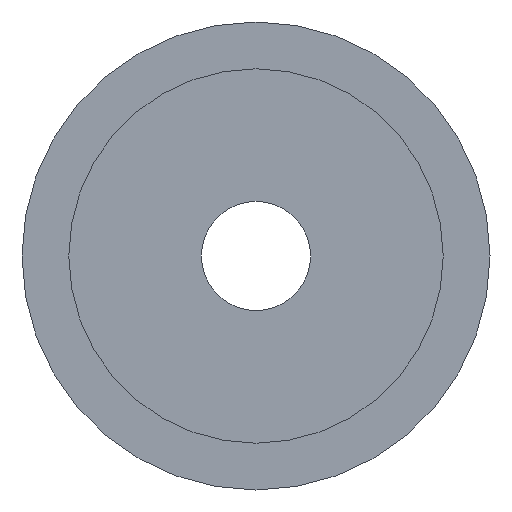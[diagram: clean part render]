
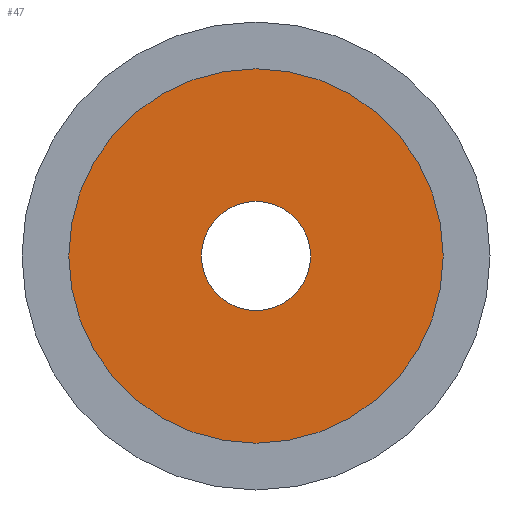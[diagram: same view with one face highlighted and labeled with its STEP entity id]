
A CAD part, left-side view. The second image highlights one B-rep face of the part: STEP entity #47.
In plain terms, the highlighted planar face has unit normal (-1, 0, 0).
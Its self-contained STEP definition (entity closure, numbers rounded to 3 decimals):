
#47 = ADVANCED_FACE ( 'NONE', ( #135, #134 ), #129, .F. ) ;
#48 = EDGE_LOOP ( 'NONE', ( #52, #54 ) ) ;
#52 = ORIENTED_EDGE ( 'NONE', *, *, #53, .F. ) ;
#53 = EDGE_CURVE ( 'NONE', #75, #72, #238, .T. ) ;
#54 = ORIENTED_EDGE ( 'NONE', *, *, #74, .F. ) ;
#55 = EDGE_LOOP ( 'NONE', ( #56, #57 ) ) ;
#56 = ORIENTED_EDGE ( 'NONE', *, *, #273, .T. ) ;
#57 = ORIENTED_EDGE ( 'NONE', *, *, #58, .T. ) ;
#58 = EDGE_CURVE ( 'NONE', #271, #274, #233, .T. ) ;
#72 = VERTEX_POINT ( 'NONE', #268 ) ;
#74 = EDGE_CURVE ( 'NONE', #72, #75, #267, .T. ) ;
#75 = VERTEX_POINT ( 'NONE', #262 ) ;
#125 = DIRECTION ( 'NONE',  ( 0., 0., -1. ) ) ;
#126 = DIRECTION ( 'NONE',  ( 1., 0., 0. ) ) ;
#127 = CARTESIAN_POINT ( 'NONE',  ( 0., 0., 0. ) ) ;
#128 = AXIS2_PLACEMENT_3D ( 'NONE', #127, #126, #125 ) ;
#129 = PLANE ( 'NONE',  #128 ) ;
#134 = FACE_BOUND ( 'NONE', #55, .T. ) ;
#135 = FACE_OUTER_BOUND ( 'NONE', #48, .T. ) ;
#229 = DIRECTION ( 'NONE',  ( 0., 0., -1. ) ) ;
#230 = DIRECTION ( 'NONE',  ( 1., 0., 0. ) ) ;
#231 = CARTESIAN_POINT ( 'NONE',  ( 0., 0., 0. ) ) ;
#232 = AXIS2_PLACEMENT_3D ( 'NONE', #231, #230, #229 ) ;
#233 = CIRCLE ( 'NONE', #232, 3.5 ) ;
#234 = DIRECTION ( 'NONE',  ( 0., 0., -1. ) ) ;
#235 = DIRECTION ( 'NONE',  ( 1., 0., 0. ) ) ;
#236 = CARTESIAN_POINT ( 'NONE',  ( 0., 0., 0. ) ) ;
#237 = AXIS2_PLACEMENT_3D ( 'NONE', #236, #235, #234 ) ;
#238 = CIRCLE ( 'NONE', #237, 12. ) ;
#262 = CARTESIAN_POINT ( 'NONE',  ( 0., 0., 12. ) ) ;
#263 = DIRECTION ( 'NONE',  ( 0., 0., -1. ) ) ;
#264 = DIRECTION ( 'NONE',  ( 1., 0., 0. ) ) ;
#265 = CARTESIAN_POINT ( 'NONE',  ( 0., 0., 0. ) ) ;
#266 = AXIS2_PLACEMENT_3D ( 'NONE', #265, #264, #263 ) ;
#267 = CIRCLE ( 'NONE', #266, 12. ) ;
#268 = CARTESIAN_POINT ( 'NONE',  ( 0., 0., -12. ) ) ;
#271 = VERTEX_POINT ( 'NONE', #381 ) ;
#273 = EDGE_CURVE ( 'NONE', #274, #271, #380, .T. ) ;
#274 = VERTEX_POINT ( 'NONE', #375 ) ;
#375 = CARTESIAN_POINT ( 'NONE',  ( 0., 0., 3.5 ) ) ;
#376 = DIRECTION ( 'NONE',  ( 0., 0., -1. ) ) ;
#377 = DIRECTION ( 'NONE',  ( 1., 0., 0. ) ) ;
#378 = CARTESIAN_POINT ( 'NONE',  ( 0., 0., 0. ) ) ;
#379 = AXIS2_PLACEMENT_3D ( 'NONE', #378, #377, #376 ) ;
#380 = CIRCLE ( 'NONE', #379, 3.5 ) ;
#381 = CARTESIAN_POINT ( 'NONE',  ( 0., 0., -3.5 ) ) ;
